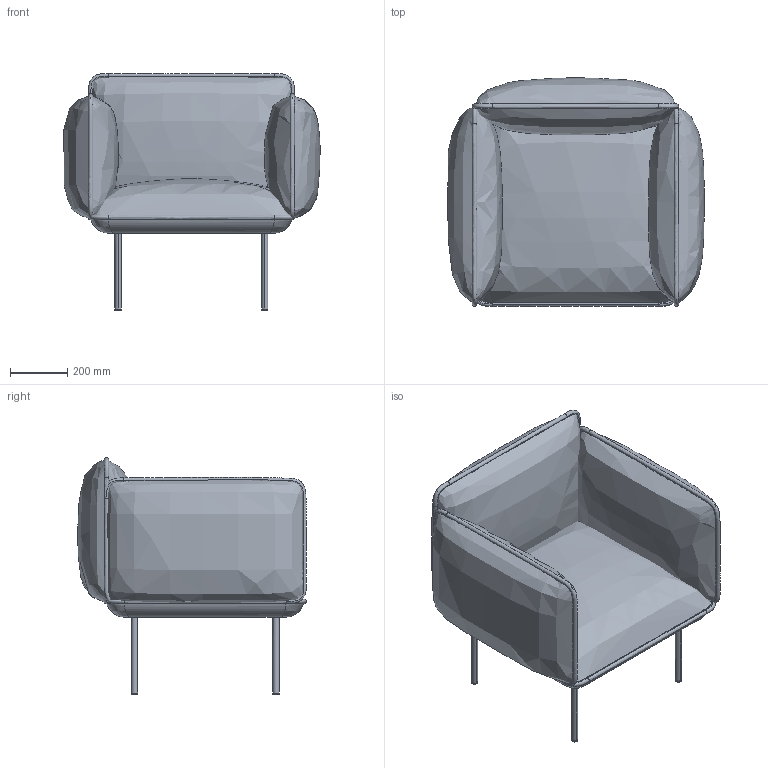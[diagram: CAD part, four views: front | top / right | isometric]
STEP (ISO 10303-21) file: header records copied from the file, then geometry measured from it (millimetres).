
FILE_DESCRIPTION(/* description */ (''),/* implementation_level */ '2;1');
FILE_NAME(/* name */ 'Nakki armchair',/* time_stamp */ '2020-04-03T16:51:51+02:00',/* author */ (''),/* organization */ (''),/* preprocessor_version */ 'ST-DEVELOPER v15',/* originating_system */ '',/* authorisation */ '');
FILE_SCHEMA (('AUTOMOTIVE_DESIGN'));
Length unit declared in the file: millimetre
Products named in the file (1): Document
Bounding box: 895.48 x 798.18 x 827.32 mm (x, y, z)
Volume: 205401925.7 mm3; surface area: 3948946.2 mm2
Topology: 16 solids, 16 shells, 106 faces, 202 edges, 126 vertices
Faces by surface type: bspline 106
Entity records: 18565 total; most frequent: CARTESIAN_POINT 15924, B_SPLINE_CURVE_WITH_KNOTS 408, ORIENTED_EDGE 404, PCURVE 404, DEFINITIONAL_REPRESENTATION 404, SURFACE_CURVE 202, EDGE_CURVE 202, VERTEX_POINT 126
